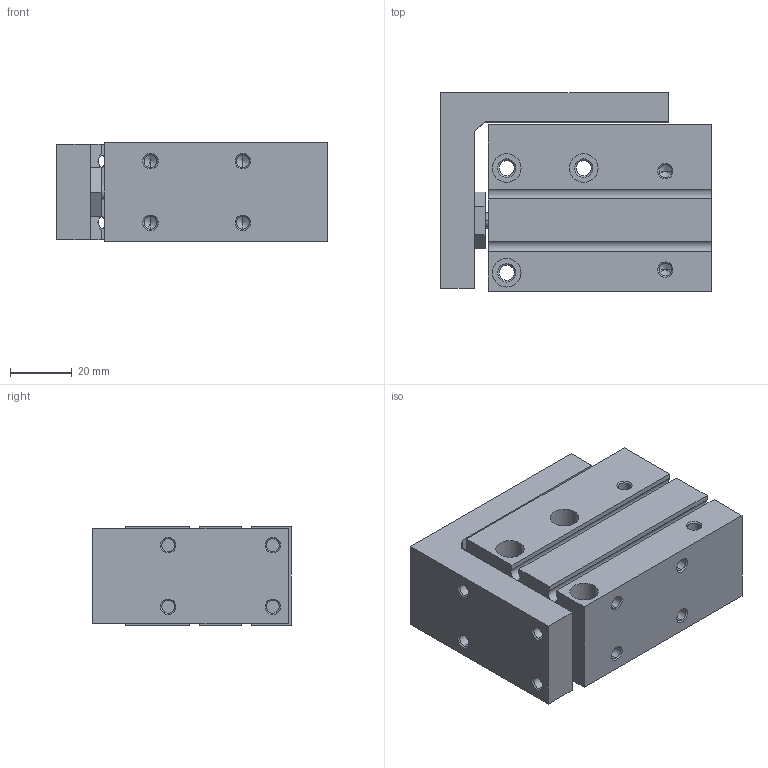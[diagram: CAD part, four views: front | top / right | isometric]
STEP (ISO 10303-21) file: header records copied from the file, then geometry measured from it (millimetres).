
FILE_DESCRIPTION (( 'STEP AP203' ), '1' );
FILE_NAME ('CXH20-20.STEP', '2020-04-16T18:14:57', ( '' ), ( '' ), 'SwSTEP 2.0', 'SolidWorks 2019', '' );
FILE_SCHEMA (( 'CONFIG_CONTROL_DESIGN' ));
Length unit declared in the file: millimetre
Products named in the file (1): CXH20-20
Bounding box: 88 x 64.5 x 32 mm (x, y, z)
Volume: 148801.8 mm3; surface area: 38796.8 mm2
Topology: 2 solids, 2 shells, 210 faces, 499 edges, 288 vertices
Faces by surface type: cone 90, cylinder 76, plane 44
Entity records: 6040 total; most frequent: DIRECTION 1099, CARTESIAN_POINT 1080, ORIENTED_EDGE 942, EDGE_CURVE 471, AXIS2_PLACEMENT_3D 423, VERTEX_POINT 288, EDGE_LOOP 255, LINE 253
